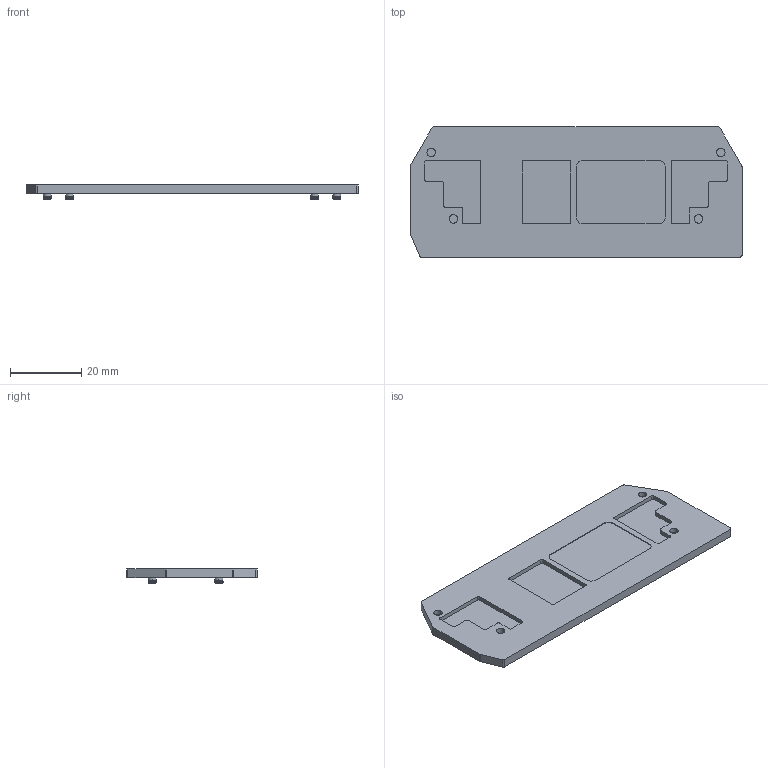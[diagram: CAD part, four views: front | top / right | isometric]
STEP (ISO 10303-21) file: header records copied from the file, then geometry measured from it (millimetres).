
FILE_DESCRIPTION (( 'STEP AP203' ), '1' );
FILE_NAME ('署赅 阎褪.757537.078.STEP', '2021-10-06T06:08:21', ( '' ), ( '' ), 'SwSTEP 2.0', 'SolidWorks 2016', '' );
FILE_SCHEMA (( 'CONFIG_CONTROL_DESIGN' ));
Length unit declared in the file: millimetre
Products named in the file (1): 署赅 阎褪.757537.078
Bounding box: 93.4 x 36.6 x 4 mm (x, y, z)
Volume: 5392.4 mm3; surface area: 8283.9 mm2
Topology: 1 solids, 1 shells, 203 faces, 528 edges, 344 vertices
Faces by surface type: plane 104, cylinder 81, cone 16, bspline 2
Entity records: 6365 total; most frequent: CARTESIAN_POINT 1158, DIRECTION 1098, ORIENTED_EDGE 1056, EDGE_CURVE 528, AXIS2_PLACEMENT_3D 372, VECTOR 354, LINE 354, VERTEX_POINT 344
